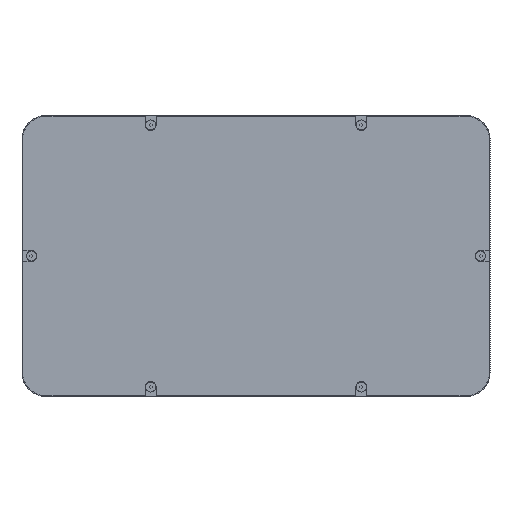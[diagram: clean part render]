
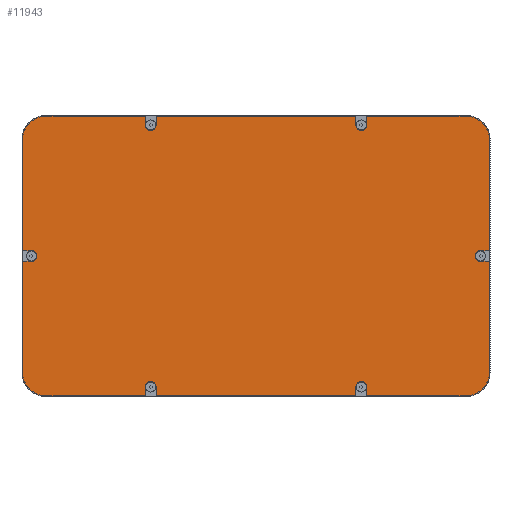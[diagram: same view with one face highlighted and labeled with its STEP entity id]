
A CAD part, front view. The second image highlights one B-rep face of the part: STEP entity #11943.
In plain terms, the highlighted planar face has unit normal (0, -1, 0).
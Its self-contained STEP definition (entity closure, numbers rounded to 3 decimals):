
#648=CIRCLE('',#12939,4.7);
#649=CIRCLE('',#12943,20.);
#650=CIRCLE('',#12947,4.7);
#651=CIRCLE('',#12952,4.7);
#652=CIRCLE('',#12956,20.);
#653=CIRCLE('',#12960,4.7);
#654=CIRCLE('',#12964,20.);
#655=CIRCLE('',#12968,4.7);
#656=CIRCLE('',#12973,4.7);
#657=CIRCLE('',#12977,20.);
#1742=ORIENTED_EDGE('',*,*,#4843,.F.);
#1743=ORIENTED_EDGE('',*,*,#4905,.F.);
#1744=ORIENTED_EDGE('',*,*,#4903,.F.);
#1745=ORIENTED_EDGE('',*,*,#4901,.F.);
#1746=ORIENTED_EDGE('',*,*,#4899,.T.);
#1747=ORIENTED_EDGE('',*,*,#4897,.F.);
#1748=ORIENTED_EDGE('',*,*,#4895,.F.);
#1749=ORIENTED_EDGE('',*,*,#4893,.F.);
#1750=ORIENTED_EDGE('',*,*,#4891,.T.);
#1751=ORIENTED_EDGE('',*,*,#4889,.F.);
#1752=ORIENTED_EDGE('',*,*,#4887,.F.);
#1753=ORIENTED_EDGE('',*,*,#4885,.F.);
#1754=ORIENTED_EDGE('',*,*,#4883,.F.);
#1755=ORIENTED_EDGE('',*,*,#4881,.F.);
#1756=ORIENTED_EDGE('',*,*,#4879,.T.);
#1757=ORIENTED_EDGE('',*,*,#4877,.F.);
#1758=ORIENTED_EDGE('',*,*,#4875,.F.);
#1759=ORIENTED_EDGE('',*,*,#4873,.F.);
#1760=ORIENTED_EDGE('',*,*,#4871,.F.);
#1761=ORIENTED_EDGE('',*,*,#4869,.F.);
#1762=ORIENTED_EDGE('',*,*,#4867,.T.);
#1763=ORIENTED_EDGE('',*,*,#4865,.F.);
#1764=ORIENTED_EDGE('',*,*,#4863,.F.);
#1765=ORIENTED_EDGE('',*,*,#4861,.F.);
#1766=ORIENTED_EDGE('',*,*,#4859,.T.);
#1767=ORIENTED_EDGE('',*,*,#4857,.F.);
#1768=ORIENTED_EDGE('',*,*,#4855,.F.);
#1769=ORIENTED_EDGE('',*,*,#4853,.F.);
#1770=ORIENTED_EDGE('',*,*,#4851,.F.);
#1771=ORIENTED_EDGE('',*,*,#4849,.F.);
#1772=ORIENTED_EDGE('',*,*,#4847,.T.);
#1773=ORIENTED_EDGE('',*,*,#4845,.F.);
#4843=EDGE_CURVE('',#6427,#6428,#7415,.T.);
#4845=EDGE_CURVE('',#6428,#6429,#7417,.T.);
#4847=EDGE_CURVE('',#6430,#6429,#648,.T.);
#4849=EDGE_CURVE('',#6430,#6431,#7420,.T.);
#4851=EDGE_CURVE('',#6431,#6432,#7422,.T.);
#4853=EDGE_CURVE('',#6432,#6433,#649,.T.);
#4855=EDGE_CURVE('',#6433,#6434,#7425,.T.);
#4857=EDGE_CURVE('',#6434,#6435,#7427,.T.);
#4859=EDGE_CURVE('',#6436,#6435,#650,.T.);
#4861=EDGE_CURVE('',#6436,#6437,#7430,.T.);
#4863=EDGE_CURVE('',#6437,#6438,#7432,.T.);
#4865=EDGE_CURVE('',#6438,#6439,#7434,.T.);
#4867=EDGE_CURVE('',#6440,#6439,#651,.T.);
#4869=EDGE_CURVE('',#6440,#6441,#7437,.T.);
#4871=EDGE_CURVE('',#6441,#6442,#7439,.T.);
#4873=EDGE_CURVE('',#6442,#6443,#652,.T.);
#4875=EDGE_CURVE('',#6443,#6444,#7442,.T.);
#4877=EDGE_CURVE('',#6444,#6445,#7444,.T.);
#4879=EDGE_CURVE('',#6446,#6445,#653,.T.);
#4881=EDGE_CURVE('',#6446,#6447,#7447,.T.);
#4883=EDGE_CURVE('',#6447,#6448,#7449,.T.);
#4885=EDGE_CURVE('',#6448,#6449,#654,.T.);
#4887=EDGE_CURVE('',#6449,#6450,#7452,.T.);
#4889=EDGE_CURVE('',#6450,#6451,#7454,.T.);
#4891=EDGE_CURVE('',#6452,#6451,#655,.T.);
#4893=EDGE_CURVE('',#6452,#6453,#7457,.T.);
#4895=EDGE_CURVE('',#6453,#6454,#7459,.T.);
#4897=EDGE_CURVE('',#6454,#6455,#7461,.T.);
#4899=EDGE_CURVE('',#6456,#6455,#656,.T.);
#4901=EDGE_CURVE('',#6456,#6457,#7464,.T.);
#4903=EDGE_CURVE('',#6457,#6458,#7466,.T.);
#4905=EDGE_CURVE('',#6458,#6427,#657,.T.);
#6427=VERTEX_POINT('',#18928);
#6428=VERTEX_POINT('',#18930);
#6429=VERTEX_POINT('',#18934);
#6430=VERTEX_POINT('',#18938);
#6431=VERTEX_POINT('',#18942);
#6432=VERTEX_POINT('',#18946);
#6433=VERTEX_POINT('',#18950);
#6434=VERTEX_POINT('',#18954);
#6435=VERTEX_POINT('',#18958);
#6436=VERTEX_POINT('',#18962);
#6437=VERTEX_POINT('',#18966);
#6438=VERTEX_POINT('',#18970);
#6439=VERTEX_POINT('',#18974);
#6440=VERTEX_POINT('',#18978);
#6441=VERTEX_POINT('',#18982);
#6442=VERTEX_POINT('',#18986);
#6443=VERTEX_POINT('',#18990);
#6444=VERTEX_POINT('',#18994);
#6445=VERTEX_POINT('',#18998);
#6446=VERTEX_POINT('',#19002);
#6447=VERTEX_POINT('',#19006);
#6448=VERTEX_POINT('',#19010);
#6449=VERTEX_POINT('',#19014);
#6450=VERTEX_POINT('',#19018);
#6451=VERTEX_POINT('',#19022);
#6452=VERTEX_POINT('',#19026);
#6453=VERTEX_POINT('',#19030);
#6454=VERTEX_POINT('',#19034);
#6455=VERTEX_POINT('',#19038);
#6456=VERTEX_POINT('',#19042);
#6457=VERTEX_POINT('',#19046);
#6458=VERTEX_POINT('',#19050);
#7415=LINE('',#18929,#8429);
#7417=LINE('',#18933,#8431);
#7420=LINE('',#18941,#8434);
#7422=LINE('',#18945,#8436);
#7425=LINE('',#18953,#8439);
#7427=LINE('',#18957,#8441);
#7430=LINE('',#18965,#8444);
#7432=LINE('',#18969,#8446);
#7434=LINE('',#18973,#8448);
#7437=LINE('',#18981,#8451);
#7439=LINE('',#18985,#8453);
#7442=LINE('',#18993,#8456);
#7444=LINE('',#18997,#8458);
#7447=LINE('',#19005,#8461);
#7449=LINE('',#19009,#8463);
#7452=LINE('',#19017,#8466);
#7454=LINE('',#19021,#8468);
#7457=LINE('',#19029,#8471);
#7459=LINE('',#19033,#8473);
#7461=LINE('',#19037,#8475);
#7464=LINE('',#19045,#8478);
#7466=LINE('',#19049,#8480);
#8429=VECTOR('',#14845,1000.);
#8431=VECTOR('',#14849,1000.);
#8434=VECTOR('',#14858,1000.);
#8436=VECTOR('',#14862,1000.);
#8439=VECTOR('',#14871,1000.);
#8441=VECTOR('',#14875,1000.);
#8444=VECTOR('',#14884,1000.);
#8446=VECTOR('',#14888,1000.);
#8448=VECTOR('',#14892,1000.);
#8451=VECTOR('',#14901,1000.);
#8453=VECTOR('',#14905,1000.);
#8456=VECTOR('',#14914,1000.);
#8458=VECTOR('',#14918,1000.);
#8461=VECTOR('',#14927,1000.);
#8463=VECTOR('',#14931,1000.);
#8466=VECTOR('',#14940,1000.);
#8468=VECTOR('',#14944,1000.);
#8471=VECTOR('',#14953,1000.);
#8473=VECTOR('',#14957,1000.);
#8475=VECTOR('',#14961,1000.);
#8478=VECTOR('',#14970,1000.);
#8480=VECTOR('',#14974,1000.);
#9362=EDGE_LOOP('',(#1742,#1743,#1744,#1745,#1746,#1747,#1748,#1749,#1750,
#1751,#1752,#1753,#1754,#1755,#1756,#1757,#1758,#1759,#1760,#1761,#1762,
#1763,#1764,#1765,#1766,#1767,#1768,#1769,#1770,#1771,#1772,#1773));
#10430=FACE_BOUND('',#9362,.T.);
#11407=PLANE('',#12978);
#11943=ADVANCED_FACE('',(#10430),#11407,.F.);
#12939=AXIS2_PLACEMENT_3D('',#18937,#14853,#14854);
#12943=AXIS2_PLACEMENT_3D('',#18949,#14866,#14867);
#12947=AXIS2_PLACEMENT_3D('',#18961,#14879,#14880);
#12952=AXIS2_PLACEMENT_3D('',#18977,#14896,#14897);
#12956=AXIS2_PLACEMENT_3D('',#18989,#14909,#14910);
#12960=AXIS2_PLACEMENT_3D('',#19001,#14922,#14923);
#12964=AXIS2_PLACEMENT_3D('',#19013,#14935,#14936);
#12968=AXIS2_PLACEMENT_3D('',#19025,#14948,#14949);
#12973=AXIS2_PLACEMENT_3D('',#19041,#14965,#14966);
#12977=AXIS2_PLACEMENT_3D('',#19053,#14978,#14979);
#12978=AXIS2_PLACEMENT_3D('',#19054,#14980,#14981);
#14845=DIRECTION('',(0.,0.,1.));
#14849=DIRECTION('',(1.,0.,0.));
#14853=DIRECTION('',(0.,1.,0.));
#14854=DIRECTION('',(1.,0.,0.));
#14858=DIRECTION('',(-1.,0.,0.));
#14862=DIRECTION('',(0.,0.,1.));
#14866=DIRECTION('',(0.,1.,0.));
#14867=DIRECTION('',(1.,0.,0.));
#14871=DIRECTION('',(1.,0.,0.));
#14875=DIRECTION('',(0.,0.,-1.));
#14879=DIRECTION('',(0.,1.,0.));
#14880=DIRECTION('',(1.,0.,0.));
#14884=DIRECTION('',(0.,0.,1.));
#14888=DIRECTION('',(1.,0.,0.));
#14892=DIRECTION('',(0.,0.,-1.));
#14896=DIRECTION('',(0.,1.,0.));
#14897=DIRECTION('',(1.,0.,0.));
#14901=DIRECTION('',(0.,0.,1.));
#14905=DIRECTION('',(1.,0.,0.));
#14909=DIRECTION('',(0.,1.,0.));
#14910=DIRECTION('',(1.,0.,0.));
#14914=DIRECTION('',(0.,0.,-1.));
#14918=DIRECTION('',(-1.,0.,0.));
#14922=DIRECTION('',(0.,1.,0.));
#14923=DIRECTION('',(1.,0.,0.));
#14927=DIRECTION('',(1.,0.,0.));
#14931=DIRECTION('',(0.,0.,-1.));
#14935=DIRECTION('',(0.,1.,0.));
#14936=DIRECTION('',(1.,0.,0.));
#14940=DIRECTION('',(-1.,0.,0.));
#14944=DIRECTION('',(0.,0.,1.));
#14948=DIRECTION('',(0.,1.,0.));
#14949=DIRECTION('',(1.,0.,0.));
#14953=DIRECTION('',(0.,0.,-1.));
#14957=DIRECTION('',(-1.,0.,0.));
#14961=DIRECTION('',(0.,0.,1.));
#14965=DIRECTION('',(0.,1.,0.));
#14966=DIRECTION('',(1.,0.,0.));
#14970=DIRECTION('',(0.,0.,-1.));
#14974=DIRECTION('',(-1.,0.,0.));
#14978=DIRECTION('',(0.,1.,0.));
#14979=DIRECTION('',(1.,0.,0.));
#14980=DIRECTION('',(0.,1.,0.));
#14981=DIRECTION('',(0.,0.,1.));
#18928=CARTESIAN_POINT('',(-199.5,-75.,-99.5));
#18929=CARTESIAN_POINT('',(-199.5,-75.,-99.5));
#18930=CARTESIAN_POINT('',(-199.5,-75.,-4.7));
#18933=CARTESIAN_POINT('',(-199.5,-75.,-4.7));
#18934=CARTESIAN_POINT('',(-192.,-75.,-4.7));
#18937=CARTESIAN_POINT('',(-192.,-75.,0.));
#18938=CARTESIAN_POINT('',(-192.,-75.,4.7));
#18941=CARTESIAN_POINT('',(-192.,-75.,4.7));
#18942=CARTESIAN_POINT('',(-199.5,-75.,4.7));
#18945=CARTESIAN_POINT('',(-199.5,-75.,4.7));
#18946=CARTESIAN_POINT('',(-199.5,-75.,99.5));
#18949=CARTESIAN_POINT('',(-179.5,-75.,99.5));
#18950=CARTESIAN_POINT('',(-179.5,-75.,119.5));
#18953=CARTESIAN_POINT('',(-179.5,-75.,119.5));
#18954=CARTESIAN_POINT('',(-94.7,-75.,119.5));
#18957=CARTESIAN_POINT('',(-94.7,-75.,119.5));
#18958=CARTESIAN_POINT('',(-94.7,-75.,112.));
#18961=CARTESIAN_POINT('',(-90.,-75.,112.));
#18962=CARTESIAN_POINT('',(-85.3,-75.,112.));
#18965=CARTESIAN_POINT('',(-85.3,-75.,112.));
#18966=CARTESIAN_POINT('',(-85.3,-75.,119.5));
#18969=CARTESIAN_POINT('',(-85.3,-75.,119.5));
#18970=CARTESIAN_POINT('',(85.3,-75.,119.5));
#18973=CARTESIAN_POINT('',(85.3,-75.,119.5));
#18974=CARTESIAN_POINT('',(85.3,-75.,112.));
#18977=CARTESIAN_POINT('',(90.,-75.,112.));
#18978=CARTESIAN_POINT('',(94.7,-75.,112.));
#18981=CARTESIAN_POINT('',(94.7,-75.,112.));
#18982=CARTESIAN_POINT('',(94.7,-75.,119.5));
#18985=CARTESIAN_POINT('',(94.7,-75.,119.5));
#18986=CARTESIAN_POINT('',(179.5,-75.,119.5));
#18989=CARTESIAN_POINT('',(179.5,-75.,99.5));
#18990=CARTESIAN_POINT('',(199.5,-75.,99.5));
#18993=CARTESIAN_POINT('',(199.5,-75.,99.5));
#18994=CARTESIAN_POINT('',(199.5,-75.,4.7));
#18997=CARTESIAN_POINT('',(199.5,-75.,4.7));
#18998=CARTESIAN_POINT('',(192.,-75.,4.7));
#19001=CARTESIAN_POINT('',(192.,-75.,0.));
#19002=CARTESIAN_POINT('',(192.,-75.,-4.7));
#19005=CARTESIAN_POINT('',(192.,-75.,-4.7));
#19006=CARTESIAN_POINT('',(199.5,-75.,-4.7));
#19009=CARTESIAN_POINT('',(199.5,-75.,-4.7));
#19010=CARTESIAN_POINT('',(199.5,-75.,-99.5));
#19013=CARTESIAN_POINT('',(179.5,-75.,-99.5));
#19014=CARTESIAN_POINT('',(179.5,-75.,-119.5));
#19017=CARTESIAN_POINT('',(179.5,-75.,-119.5));
#19018=CARTESIAN_POINT('',(94.7,-75.,-119.5));
#19021=CARTESIAN_POINT('',(94.7,-75.,-119.5));
#19022=CARTESIAN_POINT('',(94.7,-75.,-112.));
#19025=CARTESIAN_POINT('',(90.,-75.,-112.));
#19026=CARTESIAN_POINT('',(85.3,-75.,-112.));
#19029=CARTESIAN_POINT('',(85.3,-75.,-112.));
#19030=CARTESIAN_POINT('',(85.3,-75.,-119.5));
#19033=CARTESIAN_POINT('',(85.3,-75.,-119.5));
#19034=CARTESIAN_POINT('',(-85.3,-75.,-119.5));
#19037=CARTESIAN_POINT('',(-85.3,-75.,-119.5));
#19038=CARTESIAN_POINT('',(-85.3,-75.,-112.));
#19041=CARTESIAN_POINT('',(-90.,-75.,-112.));
#19042=CARTESIAN_POINT('',(-94.7,-75.,-112.));
#19045=CARTESIAN_POINT('',(-94.7,-75.,-112.));
#19046=CARTESIAN_POINT('',(-94.7,-75.,-119.5));
#19049=CARTESIAN_POINT('',(-94.7,-75.,-119.5));
#19050=CARTESIAN_POINT('',(-179.5,-75.,-119.5));
#19053=CARTESIAN_POINT('',(-179.5,-75.,-99.5));
#19054=CARTESIAN_POINT('',(-192.,-75.,0.));
